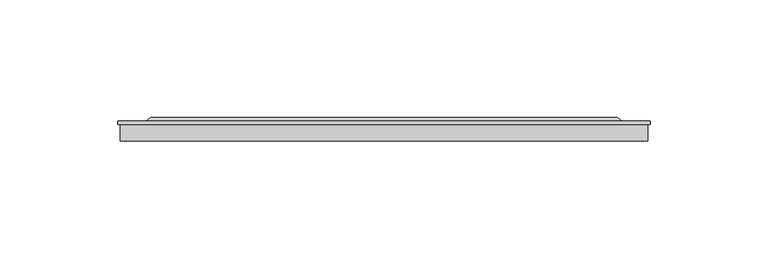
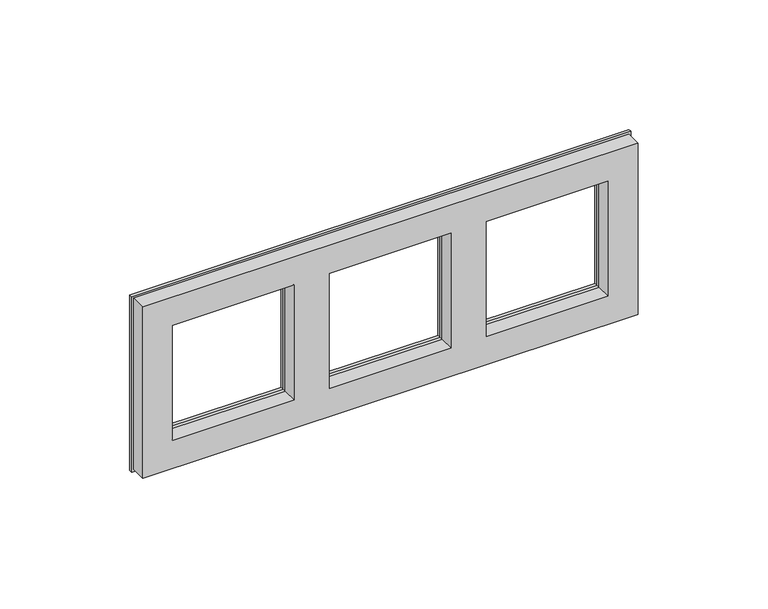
"""IFC4 building model written with IfcOpenShell, lengths in millimetres: proxy geometry, IEK_Brite_Рамка : x2_РУ-3-БрА алюм.."""

import ifcopenshell
import ifcopenshell.guid

model = None  # the IFC model being written
_history = None  # IfcOwnerHistory: only IFC2X3 demands one
_inside = {}  # id of a spatial element -> (the spatial element, [elements in it])
_under = {}  # id of a project, library or spatial element -> (it, [spatial elements below it])
_declared = {}  # id of a project -> (the project, [libraries it declares])
_typed = {}  # id of a type object -> (the type object, [elements of that type])
_made_of = {}  # id of a material, layer set ... -> (it, [elements and type objects made of it])


def new_model(schema):
    """Start an empty IFC model of exactly this schema.

    Asked for "IFC4X3", IfcOpenShell would pick the latest addendum, in which some entities
    have other attributes; the version numbers below select the first issue.
    IFC2X3 requires an IfcOwnerHistory on every rooted entity: one is made here for all.
    """
    global model, _history
    if schema == "IFC4X3":
        model = ifcopenshell.file(schema_version=(4, 3, 0, 0))
    else:
        model = ifcopenshell.file(schema=schema)
    _inside.clear()
    _under.clear()
    _declared.clear()
    _typed.clear()
    _made_of.clear()
    _history = None
    if model.schema == "IFC2X3":
        org = make("IfcOrganization", Name="unknown")
        user = make(
            "IfcPersonAndOrganization",
            ThePerson=make("IfcPerson", FamilyName="unknown"),
            TheOrganization=org,
        )
        app = make(
            "IfcApplication",
            ApplicationDeveloper=org,
            Version="unknown",
            ApplicationFullName="unknown",
            ApplicationIdentifier="unknown",
        )
        _history = make(
            "IfcOwnerHistory",
            OwningUser=user,
            OwningApplication=app,
            ChangeAction="ADDED",
            CreationDate=0,
        )
    return model


def make(cls, **values):
    """One entity of the class cls with the attributes given. An attribute that is None is left unset."""
    return model.create_entity(
        cls, **{name: value for name, value in values.items() if value is not None}
    )


def rooted(cls, **values):
    """An entity with a GlobalId (a new one), such as an element, a storey or a relation."""
    return make(cls, GlobalId=ifcopenshell.guid.new(), OwnerHistory=_history, **values)


def si_unit(unit_type, name, prefix=None):
    """IfcSIUnit, for example si_unit("LENGTHUNIT", "METRE", prefix="MILLI")."""
    return make("IfcSIUnit", UnitType=unit_type, Prefix=prefix, Name=name)


def assignment(units):
    """IfcUnitAssignment: the units of a project."""
    return None if units is None else make("IfcUnitAssignment", Units=units)


def point(xyz):
    """IfcCartesianPoint."""
    return None if xyz is None else make("IfcCartesianPoint", Coordinates=xyz)


def direction(xyz):
    """IfcDirection."""
    return None if xyz is None else make("IfcDirection", DirectionRatios=xyz)


def frame(location, z_axis=None, x_axis=None):
    """IfcAxis2Placement3D, a coordinate frame: its origin and axes. An axis left out is left unset."""
    return make(
        "IfcAxis2Placement3D",
        Location=point(location),
        Axis=direction(z_axis),
        RefDirection=direction(x_axis),
    )


def origin():
    """The frame at (0, 0, 0) with its axes left unset."""
    return frame((0.0, 0.0, 0.0))


def place(relative_to, where):
    """IfcLocalPlacement: puts the frame where relative to a parent placement (None: the world)."""
    return make(
        "IfcLocalPlacement", PlacementRelTo=relative_to, RelativePlacement=where
    )


def context(
    kind, dimensions, precision=None, world=None, true_north=None, identifier=None
):
    """IfcGeometricRepresentationContext, for example the 3D "Model" context."""
    return make(
        "IfcGeometricRepresentationContext",
        ContextIdentifier=identifier,
        ContextType=kind,
        CoordinateSpaceDimension=dimensions,
        Precision=precision,
        WorldCoordinateSystem=world,
        TrueNorth=true_north,
    )


def project(units=None, contexts=None):
    """IfcProject with its units and contexts."""
    return rooted(
        "IfcProject",
        Name="project",
        RepresentationContexts=contexts,
        UnitsInContext=assignment(units),
    )


def spatial(cls, under=None, at=None, **own):
    """A site, building, storey or space (cls), placed at a placement, below another one or the project."""
    s = rooted(cls, ObjectPlacement=at, **own)
    if under is not None:
        _under.setdefault(under.id(), (under, []))[1].append(s)
    return s


def polyline(points):
    """IfcPolyline through the points."""
    return make("IfcPolyline", Points=[point(p) for p in points])


def outline(outer, holes=None, kind="AREA"):
    """IfcArbitraryClosedProfileDef: a profile drawn as a closed curve; with holes, ...WithVoids."""
    if holes is None:
        return make("IfcArbitraryClosedProfileDef", ProfileType=kind, OuterCurve=outer)
    return make(
        "IfcArbitraryProfileDefWithVoids",
        ProfileType=kind,
        OuterCurve=outer,
        InnerCurves=holes,
    )


def extrude(swept, where, along, depth):
    """IfcExtrudedAreaSolid: the profile swept, set in the frame where, extruded along a direction by depth."""
    return make(
        "IfcExtrudedAreaSolid",
        SweptArea=swept,
        Position=where,
        ExtrudedDirection=direction(along),
        Depth=depth,
    )


def faces_of(points, faces, orient=None, outer=None):
    """IfcFace entities. A face is a list of loops; a loop is a list of indices into points, from 0.

    orient and outer hold one flag for each loop. By default every Orientation is true, the
    first loop of a face is its IfcFaceOuterBound and the others are IfcFaceBound.
    """
    made = []
    for i, loops in enumerate(faces):
        bounds = []
        for j, loop in enumerate(loops):
            is_outer = j == 0 if outer is None else outer[i][j]
            bounds.append(
                make(
                    "IfcFaceOuterBound" if is_outer else "IfcFaceBound",
                    Bound=make("IfcPolyLoop", Polygon=[points[k] for k in loop]),
                    Orientation=True if orient is None else orient[i][j],
                )
            )
        made.append(make("IfcFace", Bounds=bounds))
    return made


def faceted_brep(points, faces, orient=None, outer=None, voids=None):
    """IfcFacetedBrep: a solid bounded by flat faces; with voids (closed shells), ...WithVoids."""
    shared = [point(p) for p in points]
    hull = make("IfcClosedShell", CfsFaces=faces_of(shared, faces, orient, outer))
    if voids is None:
        return make("IfcFacetedBrep", Outer=hull)
    return make(
        "IfcFacetedBrepWithVoids",
        Outer=hull,
        Voids=[
            make(cls, CfsFaces=faces_of(shared, fs, o, b)) for cls, fs, o, b in voids
        ],
    )


def shape(context_of_items, identifier, shape_type, items):
    """IfcShapeRepresentation: the items that make up one representation, for example the "Body"."""
    return make(
        "IfcShapeRepresentation",
        ContextOfItems=context_of_items,
        RepresentationIdentifier=identifier,
        RepresentationType=shape_type,
        Items=items,
    )


def source(mapping_origin, context_of_items, identifier, shape_type, items):
    """IfcRepresentationMap: a shape defined once, which mapped items show again and again."""
    return make(
        "IfcRepresentationMap",
        MappingOrigin=mapping_origin,
        MappedRepresentation=shape(context_of_items, identifier, shape_type, items),
    )


def transform(
    local_origin,
    x_axis=None,
    y_axis=None,
    z_axis=None,
    scale=None,
    scale2=None,
    scale3=None,
    uniform=True,
):
    """IfcCartesianTransformationOperator3D, or its non-uniform kind. x_axis, y_axis, z_axis: its Axis1, 2, 3."""
    if uniform:
        return make(
            "IfcCartesianTransformationOperator3D",
            Axis1=direction(x_axis),
            Axis2=direction(y_axis),
            LocalOrigin=point(local_origin),
            Scale=scale,
            Axis3=direction(z_axis),
        )
    return make(
        "IfcCartesianTransformationOperator3DnonUniform",
        Axis1=direction(x_axis),
        Axis2=direction(y_axis),
        LocalOrigin=point(local_origin),
        Scale=scale,
        Axis3=direction(z_axis),
        Scale2=scale2,
        Scale3=scale3,
    )


def mapped(mapping_source, mapping_target):
    """IfcMappedItem: shows the shape of a source again, moved by a transform."""
    return make(
        "IfcMappedItem", MappingSource=mapping_source, MappingTarget=mapping_target
    )


def made_of(thing, what):
    """Note that an element or type object is made of a material, layer set ...; save() writes the relation."""
    if what is not None:
        _made_of.setdefault(what.id(), (what, []))[1].append(thing)
    return thing


def element(
    cls,
    number,
    at=None,
    inside=None,
    cuts=None,
    type_object=None,
    material=None,
    context=None,
    identifier="Body",
    shape_type=None,
    held_by="IfcProductDefinitionShape",
    body=None,
    shapes=None,
    **own,
):
    """One element of the class cls, such as IfcWall. Its Tag is "e" and its number.

    at: its placement. inside: the storey or other place that contains it. cuts: it is an
    opening in that element (IfcRelVoidsElement). A single representation is given by context,
    identifier, shape_type and body (its items); several are given by shapes. held_by: the class
    of the entity that holds the representations. save() writes the other relations.
    """
    e = rooted(cls, Tag="e%d" % number, ObjectPlacement=at, **own)
    if body is not None:
        shapes = [shape(context, identifier, shape_type, body)]
    if shapes is not None:
        e.Representation = make(held_by, Representations=shapes)
    if inside is not None:
        _inside.setdefault(inside.id(), (inside, []))[1].append(e)
    if cuts is not None:
        rooted(
            "IfcRelVoidsElement", RelatingBuildingElement=cuts, RelatedOpeningElement=e
        )
    if type_object is not None:
        _typed.setdefault(type_object.id(), (type_object, []))[1].append(e)
    return made_of(e, material)


def aggregate(whole, parts):
    """IfcRelAggregates: a whole, such as a stair, and the parts it consists of."""
    return rooted("IfcRelAggregates", RelatingObject=whole, RelatedObjects=parts)


def save(model, path):
    """Write the relations noted so far, then the file.

    IfcRelAggregates (storeys below a building ...), IfcRelContainedInSpatialStructure (elements
    in a storey), IfcRelDefinesByType, IfcRelAssociatesMaterial and IfcRelDeclares: one each for
    every whole, place, type object, material and project.
    """
    for whole, parts in _under.values():
        aggregate(whole, parts)
    for where, things in _inside.values():
        rooted(
            "IfcRelContainedInSpatialStructure",
            RelatedElements=things,
            RelatingStructure=where,
        )
    for kind, things in _typed.values():
        rooted("IfcRelDefinesByType", RelatedObjects=things, RelatingType=kind)
    for what, things in _made_of.values():
        rooted("IfcRelAssociatesMaterial", RelatedObjects=things, RelatingMaterial=what)
    for by, libraries in _declared.values():
        rooted("IfcRelDeclares", RelatingContext=by, RelatedDefinitions=libraries)
    model.write(path)


def electrical_fixtures_2faa5ad1(model_context):
    return source(origin(), model_context, "Body", "SolidModel", [
        extrude(outline(polyline([(41.0, -183.0), (-41.0, -183.0), (-41.0, 41.0), (41.0, 41.0), (41.0, -183.0)]), holes=[polyline([(-27.5, -169.5), (27.5, -169.5), (27.5, -114.5), (-27.5, -114.5), (-27.5, -169.5)]), polyline([(-27.5, -98.5), (27.5, -98.5), (27.5, -43.5), (-27.5, -43.5), (-27.5, -98.5)]), polyline([(-27.5, -27.5), (27.5, -27.5), (27.5, 27.5), (-27.5, 27.5), (-27.5, -27.5)])]), frame((0.0, 0.0, 0.0), z_axis=(0.0, 1.0, 0.0), x_axis=(0.0, 0.0, 1.0)), (0.0, 0.0, 1.0), 7.0),
        extrude(outline(polyline([(42.0, -184.0), (-42.0, -184.0), (-42.0, 42.0), (42.0, 42.0), (42.0, -184.0)]), holes=[polyline([(-27.5, -169.5), (27.5, -169.5), (27.5, -114.5), (-27.5, -114.5), (-27.5, -169.5)]), polyline([(-27.5, -98.5), (27.5, -98.5), (27.5, -43.5), (-27.5, -43.5), (-27.5, -98.5)]), polyline([(-27.5, -27.5), (27.5, -27.5), (27.5, 27.5), (-27.5, 27.5), (-27.5, -27.5)])]), frame((0.0, 7.0, 0.0), z_axis=(0.0, 1.0, 0.0), x_axis=(0.0, 0.0, 1.0)), (0.0, 0.0, 1.0), 1.5),
        faceted_brep([(-27.5, 10.0, 27.5), (-27.5, 8.5, 27.5), (-27.5, 8.5, -27.5), (-27.5, 10.0, -27.5), (27.5, 8.5, -27.5), (27.5, 10.0, -27.5), (27.5, 8.5, 27.5), (27.5, 10.0, 27.5), (-172.0, 8.5, 30.0), (-172.0, 8.5, -30.0), (30.0, 8.5, -30.0), (30.0, 8.5, 30.0), (-169.5, 8.5, -27.5), (-169.5, 8.5, 27.5), (-114.5, 8.5, 27.5), (-114.5, 8.5, -27.5), (-98.5, 8.5, -27.5), (-98.5, 8.5, 27.5), (-43.5, 8.5, 27.5), (-43.5, 8.5, -27.5), (-170.0, 10.0, 28.0), (28.0, 10.0, 28.0), (28.0, 10.0, -28.0), (-170.0, 10.0, -28.0), (-169.5, 10.0, 27.5), (-169.5, 10.0, -27.5), (-114.5, 10.0, -27.5), (-114.5, 10.0, 27.5), (-98.5, 10.0, 27.5), (-98.5, 10.0, -27.5), (-43.5, 10.0, -27.5), (-43.5, 10.0, 27.5)], [[[0, 1, 2, 3]], [[3, 2, 4, 5]], [[5, 4, 6, 7]], [[1, 0, 7, 6]], [[8, 9, 10, 11], [2, 1, 6, 4], [12, 13, 14, 15], [16, 17, 18, 19]], [[20, 21, 22, 23], [0, 3, 5, 7], [24, 25, 26, 27], [28, 29, 30, 31]], [[9, 8, 20, 23]], [[10, 9, 23, 22]], [[11, 10, 22, 21]], [[8, 11, 21, 20]], [[24, 13, 12, 25]], [[25, 12, 15, 26]], [[26, 15, 14, 27]], [[13, 24, 27, 14]], [[28, 17, 16, 29]], [[29, 16, 19, 30]], [[30, 19, 18, 31]], [[17, 28, 31, 18]]]),
    ])


if __name__ == "__main__":
    model = new_model("IFC4")
    model_context = context("Model", 3, world=origin())
    ifc_project = project(units=[si_unit("LENGTHUNIT", "METRE", prefix="MILLI")], contexts=[model_context])
    site = spatial("IfcSite", under=ifc_project)
    building = spatial("IfcBuilding", under=site)
    placement = place(None, origin())
    electrical_fixtures_shape = electrical_fixtures_2faa5ad1(model_context)
    element("IfcBuildingElementProxy", 1, Name="IEK_Brite_Рамка : x2_РУ-3-БрА алюм.", ObjectType="IEK_Brite_Рамка : x2_РУ-3-БрА алюм.", at=placement, inside=building, context=model_context, shape_type="MappedRepresentation", body=[
        mapped(electrical_fixtures_shape, transform((0.0, 0.0, 0.0), x_axis=(1.0, 0.0, 0.0), y_axis=(0.0, 1.0, 0.0), z_axis=(0.0, 0.0, 1.0))),
    ])
    save(model, "model.ifc")
